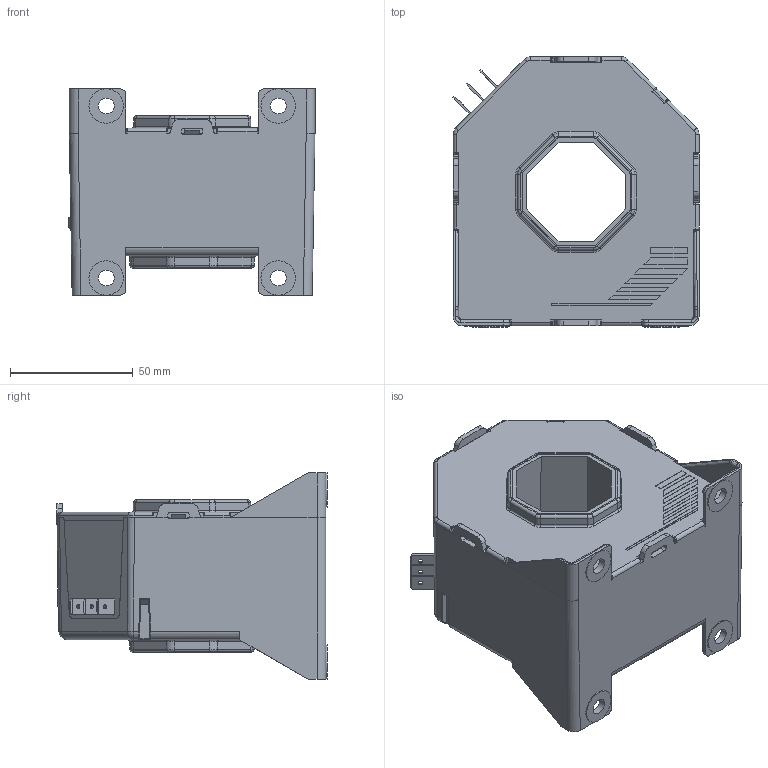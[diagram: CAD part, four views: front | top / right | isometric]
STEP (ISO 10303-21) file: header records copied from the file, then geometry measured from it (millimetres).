
FILE_DESCRIPTION(('CoCreate Modeling STEP Export'),'2;1');
FILE_NAME('black-box LT 505-S.stp','2010-07-02T11:35:52',(''),(''),'CoCreate Modeling STEP processor for AP214 (Solid Model)','CoCreate Modeling 16.00A 16-Aug-2008 (C) Parametric Technology GmbH','');
FILE_SCHEMA(('AUTOMOTIVE_DESIGN { 1 0 10303 214 1 1 1 1 }'));
Products named in the file (1): black-box
Bounding box: 100.12 x 110 x 84 mm (x, y, z)
Volume: 105193.1 mm3; surface area: 102535.1 mm2
Topology: 1 solids, 1 shells, 1832 faces, 4892 edges, 3122 vertices
Faces by surface type: plane 1179, cylinder 430, torus 103, bspline 60, cone 36, extrusion 18, sphere 6
Entity records: 63097 total; most frequent: CARTESIAN_POINT 19031, ORIENTED_EDGE 9772, DIRECTION 8290, EDGE_CURVE 4886, VECTOR 3530, LINE 3517, VERTEX_POINT 3122, AXIS2_PLACEMENT_3D 2380
